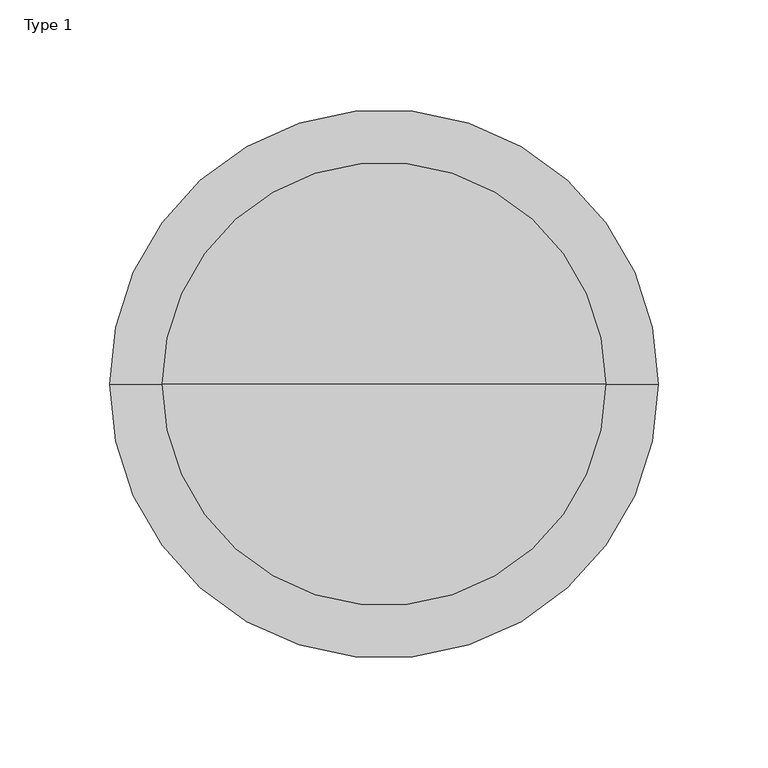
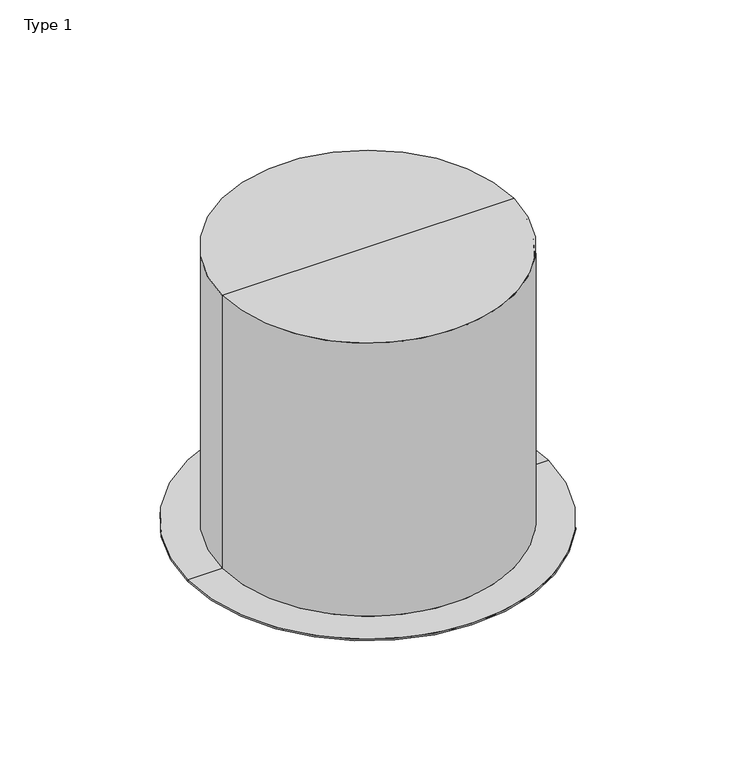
"""IFC4 building model written with IfcOpenShell, lengths in millimetres: light fixture geometry, 200mm Open Downlight 32W TRT : Type 1."""

from ifc_helpers import new_model, si_unit, frame, origin, place, context, project, spatial, polyline, circle_curve, source, transform, mapped, element, save
from ifc_brep_helpers import plane_surface, cylinder_surface, revolved_surface, advanced_brep


def type_1_23b9b50b(model_context):
    return source(origin(), model_context, "Body", "AdvancedBrep", [
        advanced_brep(
        [(-100.0, 0.0, 4000.0), (100.0, 0.0, 4000.0), (100.0, 0.0, 4200.0), (-100.0, 0.0, 4200.0), (-125.0, 0.0, 4000.0), (125.0, 0.0, 4000.0), (-125.0, 0.0, 4001.0), (125.0, 0.0, 4001.0), (-101.0, 0.0, 4001.0), (101.0, 0.0, 4001.0), (-101.0, 0.0, 4201.0), (101.0, 0.0, 4201.0), (0.0, 0.0, 4201.0), (0.0, 0.0, 4200.0)],
        [
            (0, 1, circle_curve(frame((0.0, 0.0, 4000.0), z_axis=(0.0, 0.0, -1.0), x_axis=(1.0, 0.0, 0.0)), 100.0)),
            (1, 2),
            (2, 3, circle_curve(frame((0.0, 0.0, 4200.0), z_axis=(0.0, 0.0, 1.0), x_axis=(1.0, 0.0, 0.0)), 100.0)),
            (3, 0),
            (1, 0, circle_curve(frame((0.0, 0.0, 4000.0), z_axis=(0.0, 0.0, -1.0), x_axis=(1.0, 0.0, 0.0)), 100.0)),
            (3, 2, circle_curve(frame((0.0, 0.0, 4200.0), z_axis=(0.0, 0.0, 1.0), x_axis=(1.0, 0.0, 0.0)), 100.0)),
            (4, 5, circle_curve(frame((0.0, 0.0, 4000.0), z_axis=(0.0, 0.0, -1.0), x_axis=(1.0, 0.0, 0.0)), 125.0)),
            (5, 1),
            (0, 4),
            (5, 4, circle_curve(frame((0.0, 0.0, 4000.0), z_axis=(0.0, 0.0, -1.0), x_axis=(1.0, 0.0, 0.0)), 125.0)),
            (6, 7, circle_curve(frame((0.0, 0.0, 4001.0), z_axis=(0.0, 0.0, -1.0), x_axis=(1.0, 0.0, 0.0)), 125.0)),
            (7, 5),
            (4, 6),
            (7, 6, circle_curve(frame((0.0, 0.0, 4001.0), z_axis=(0.0, 0.0, -1.0), x_axis=(1.0, 0.0, 0.0)), 125.0)),
            (8, 9, circle_curve(frame((0.0, 0.0, 4001.0), z_axis=(0.0, 0.0, -1.0), x_axis=(1.0, 0.0, 0.0)), 101.0)),
            (9, 7),
            (6, 8),
            (9, 8, circle_curve(frame((0.0, 0.0, 4001.0), z_axis=(0.0, 0.0, -1.0), x_axis=(1.0, 0.0, 0.0)), 101.0)),
            (10, 11, circle_curve(frame((0.0, 0.0, 4201.0), z_axis=(0.0, 0.0, -1.0), x_axis=(1.0, 0.0, 0.0)), 101.0)),
            (11, 9),
            (8, 10),
            (11, 10, circle_curve(frame((0.0, 0.0, 4201.0), z_axis=(0.0, 0.0, -1.0), x_axis=(1.0, 0.0, 0.0)), 101.0)),
            (12, 11),
            (10, 12),
            (2, 13),
            (13, 3),
        ],
        [
            revolved_surface(polyline([(100.0, 0.0, 4200.0), (100.0, 0.0, 4000.0)]), (0.0, 0.0, 4115.0), (0.0, 0.0, 1.0)),
            plane_surface(frame((0.0, 0.0, 4000.0), z_axis=(0.0, 0.0, -1.0), x_axis=(1.0, 0.0, 0.0))),
            cylinder_surface(frame((0.0, 0.0, 4115.0), z_axis=(0.0, 0.0, 1.0), x_axis=(1.0, 0.0, 0.0)), 125.0),
            plane_surface(frame((0.0, 0.0, 4001.0), z_axis=(0.0, 0.0, 1.0), x_axis=(1.0, 0.0, 0.0))),
            cylinder_surface(frame((0.0, 0.0, 4115.0), z_axis=(0.0, 0.0, 1.0), x_axis=(1.0, 0.0, 0.0)), 101.0),
            plane_surface(frame((0.0, 0.0, 4201.0), z_axis=(0.0, 0.0, 1.0), x_axis=(1.0, 0.0, 0.0))),
            plane_surface(frame((0.0, 0.0, 4200.0), z_axis=(0.0, 0.0, -1.0), x_axis=(1.0, 0.0, 0.0))),
        ],
        [
            (0, [[1, 2, 3, 4]]),
            (0, [[5, -4, 6, -2]]),
            (1, [[7, 8, -1, 9]]),
            (1, [[10, -9, -5, -8]]),
            (2, [[11, 12, -7, 13]]),
            (2, [[14, -13, -10, -12]]),
            (3, [[15, 16, -11, 17]]),
            (3, [[18, -17, -14, -16]]),
            (4, [[19, 20, -15, 21]]),
            (4, [[22, -21, -18, -20]]),
            (5, [[23, -19, 24]]),
            (5, [[-24, -22, -23]]),
            (6, [[-3, 25, 26]]),
            (6, [[-6, -26, -25]]),
        ],
    ),
    ])


if __name__ == "__main__":
    model = new_model("IFC4")
    model_context = context("Model", 3, world=origin())
    ifc_project = project(units=[si_unit("LENGTHUNIT", "METRE", prefix="MILLI")], contexts=[model_context])
    site = spatial("IfcSite", under=ifc_project)
    building = spatial("IfcBuilding", under=site)
    placement = place(None, origin())
    type_1_shape = type_1_23b9b50b(model_context)
    element("IfcLightFixture", 1, ObjectType="200mm Open Downlight 32W TRT : Type 1", at=placement, inside=building, context=model_context, shape_type="MappedRepresentation", body=[
        mapped(type_1_shape, transform((0.0, 0.0, 0.0), x_axis=(1.0, 0.0, 0.0), y_axis=(0.0, 1.0, 0.0), z_axis=(0.0, 0.0, 1.0))),
    ])
    save(model, "model.ifc")
